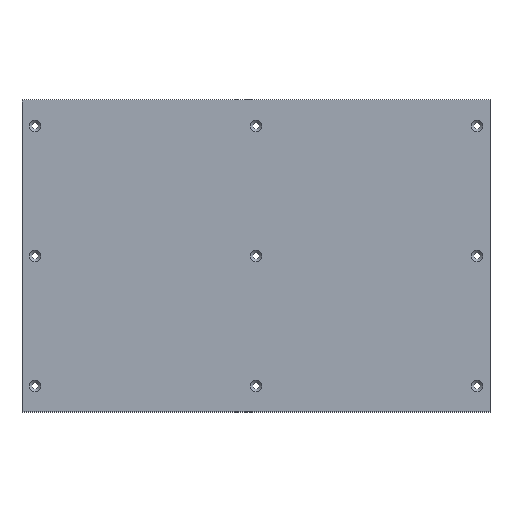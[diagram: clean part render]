
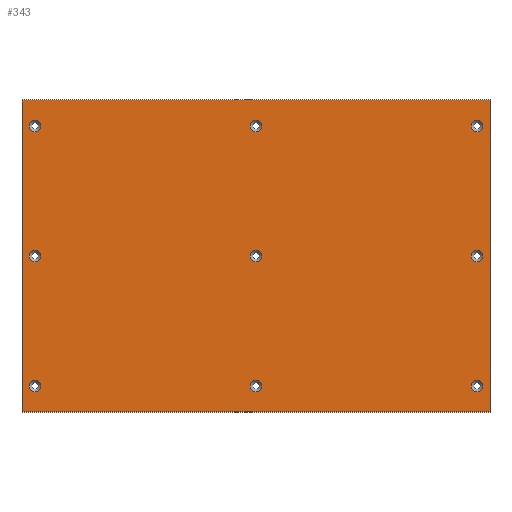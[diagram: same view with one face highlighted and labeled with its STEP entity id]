
A CAD part, top view. The second image highlights one B-rep face of the part: STEP entity #343.
In plain terms, the highlighted planar face has unit normal (0, 0, 1).
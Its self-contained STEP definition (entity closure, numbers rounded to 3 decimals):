
#3 = CARTESIAN_POINT ( 'NONE',  ( -174.5, 0., 5. ) ) ;
#6 = CARTESIAN_POINT ( 'NONE',  ( 170., 100., 5. ) ) ;
#25 = EDGE_CURVE ( 'NONE', #508, #505, #165, .T. ) ;
#26 = DIRECTION ( 'NONE',  ( 0., 0., -1. ) ) ;
#34 = EDGE_LOOP ( 'NONE', ( #669 ) ) ;
#35 = DIRECTION ( 'NONE',  ( -1., 0., 0. ) ) ;
#41 = AXIS2_PLACEMENT_3D ( 'NONE', #357, #522, #579 ) ;
#42 = CARTESIAN_POINT ( 'NONE',  ( -174.5, 100., 5. ) ) ;
#43 = DIRECTION ( 'NONE',  ( -1., 0., 0. ) ) ;
#46 = DIRECTION ( 'NONE',  ( 0., 0., -1. ) ) ;
#48 = ORIENTED_EDGE ( 'NONE', *, *, #526, .T. ) ;
#49 = VERTEX_POINT ( 'NONE', #111 ) ;
#50 = FACE_BOUND ( 'NONE', #689, .T. ) ;
#56 = LINE ( 'NONE', #385, #593 ) ;
#62 = EDGE_CURVE ( 'NONE', #505, #511, #56, .T. ) ;
#65 = AXIS2_PLACEMENT_3D ( 'NONE', #585, #26, #81 ) ;
#66 = DIRECTION ( 'NONE',  ( 0., 1., 0. ) ) ;
#81 = DIRECTION ( 'NONE',  ( -1., 0., 0. ) ) ;
#83 = EDGE_LOOP ( 'NONE', ( #266 ) ) ;
#85 = EDGE_CURVE ( 'NONE', #308, #308, #121, .T. ) ;
#90 = CARTESIAN_POINT ( 'NONE',  ( 0., -100., 5. ) ) ;
#99 = ORIENTED_EDGE ( 'NONE', *, *, #62, .T. ) ;
#105 = VERTEX_POINT ( 'NONE', #322 ) ;
#110 = CIRCLE ( 'NONE', #328, 4.5 ) ;
#111 = CARTESIAN_POINT ( 'NONE',  ( 165.5, 0., 5. ) ) ;
#112 = CIRCLE ( 'NONE', #694, 4.5 ) ;
#116 = EDGE_CURVE ( 'NONE', #602, #602, #110, .T. ) ;
#121 = CIRCLE ( 'NONE', #374, 4.5 ) ;
#137 = DIRECTION ( 'NONE',  ( 0., 0., -1. ) ) ;
#142 = ORIENTED_EDGE ( 'NONE', *, *, #437, .T. ) ;
#144 = AXIS2_PLACEMENT_3D ( 'NONE', #204, #46, #433 ) ;
#162 = EDGE_LOOP ( 'NONE', ( #336 ) ) ;
#165 = LINE ( 'NONE', #174, #630 ) ;
#168 = AXIS2_PLACEMENT_3D ( 'NONE', #90, #586, #43 ) ;
#174 = CARTESIAN_POINT ( 'NONE',  ( -180., -120., 5. ) ) ;
#204 = CARTESIAN_POINT ( 'NONE',  ( 0., 0., 5. ) ) ;
#206 = VERTEX_POINT ( 'NONE', #42 ) ;
#219 = CARTESIAN_POINT ( 'NONE',  ( 165.5, -100., 5. ) ) ;
#224 = AXIS2_PLACEMENT_3D ( 'NONE', #6, #450, #289 ) ;
#243 = DIRECTION ( 'NONE',  ( -1., 0., 0. ) ) ;
#255 = FACE_BOUND ( 'NONE', #83, .T. ) ;
#260 = FACE_BOUND ( 'NONE', #389, .T. ) ;
#265 = LINE ( 'NONE', #488, #517 ) ;
#266 = ORIENTED_EDGE ( 'NONE', *, *, #425, .T. ) ;
#268 = FACE_BOUND ( 'NONE', #34, .T. ) ;
#270 = VERTEX_POINT ( 'NONE', #3 ) ;
#273 = CIRCLE ( 'NONE', #641, 4.5 ) ;
#275 = CARTESIAN_POINT ( 'NONE',  ( -4.5, 0., 5. ) ) ;
#276 = CARTESIAN_POINT ( 'NONE',  ( 170., -100., 5. ) ) ;
#285 = CARTESIAN_POINT ( 'NONE',  ( -180., 120., 5. ) ) ;
#289 = DIRECTION ( 'NONE',  ( -1., 0., 0. ) ) ;
#300 = LINE ( 'NONE', #690, #617 ) ;
#308 = VERTEX_POINT ( 'NONE', #219 ) ;
#310 = EDGE_LOOP ( 'NONE', ( #418 ) ) ;
#320 = FACE_BOUND ( 'NONE', #596, .T. ) ;
#322 = CARTESIAN_POINT ( 'NONE',  ( -4.5, -100., 5. ) ) ;
#326 = CARTESIAN_POINT ( 'NONE',  ( 165.5, 100., 5. ) ) ;
#328 = AXIS2_PLACEMENT_3D ( 'NONE', #571, #577, #521 ) ;
#332 = VERTEX_POINT ( 'NONE', #326 ) ;
#336 = ORIENTED_EDGE ( 'NONE', *, *, #85, .T. ) ;
#340 = CIRCLE ( 'NONE', #168, 4.5 ) ;
#343 = ADVANCED_FACE ( 'NONE', ( #534, #50, #260, #484, #320, #255, #708, #268, #479, #366 ), #702, .F. ) ;
#355 = CIRCLE ( 'NONE', #41, 4.5 ) ;
#357 = CARTESIAN_POINT ( 'NONE',  ( -170., 0., 5. ) ) ;
#366 = FACE_OUTER_BOUND ( 'NONE', #716, .T. ) ;
#373 = ORIENTED_EDGE ( 'NONE', *, *, #653, .T. ) ;
#374 = AXIS2_PLACEMENT_3D ( 'NONE', #276, #498, #243 ) ;
#375 = CIRCLE ( 'NONE', #65, 4.5 ) ;
#378 = CARTESIAN_POINT ( 'NONE',  ( -4.5, 100., 5. ) ) ;
#384 = EDGE_CURVE ( 'NONE', #710, #710, #112, .T. ) ;
#385 = CARTESIAN_POINT ( 'NONE',  ( 180., -120., 5. ) ) ;
#389 = EDGE_LOOP ( 'NONE', ( #48 ) ) ;
#392 = EDGE_LOOP ( 'NONE', ( #373 ) ) ;
#401 = CARTESIAN_POINT ( 'NONE',  ( 180., -120., 5. ) ) ;
#407 = DIRECTION ( 'NONE',  ( -1., 0., 0. ) ) ;
#413 = ORIENTED_EDGE ( 'NONE', *, *, #597, .T. ) ;
#417 = CARTESIAN_POINT ( 'NONE',  ( -170., -100., 5. ) ) ;
#418 = ORIENTED_EDGE ( 'NONE', *, *, #495, .T. ) ;
#423 = ORIENTED_EDGE ( 'NONE', *, *, #664, .T. ) ;
#425 = EDGE_CURVE ( 'NONE', #105, #105, #340, .T. ) ;
#433 = DIRECTION ( 'NONE',  ( -1., 0., 0. ) ) ;
#437 = EDGE_CURVE ( 'NONE', #485, #508, #265, .T. ) ;
#450 = DIRECTION ( 'NONE',  ( 0., 0., -1. ) ) ;
#457 = AXIS2_PLACEMENT_3D ( 'NONE', #590, #137, #35 ) ;
#479 = FACE_BOUND ( 'NONE', #392, .T. ) ;
#480 = ORIENTED_EDGE ( 'NONE', *, *, #384, .T. ) ;
#483 = CIRCLE ( 'NONE', #224, 4.5 ) ;
#484 = FACE_BOUND ( 'NONE', #310, .T. ) ;
#485 = VERTEX_POINT ( 'NONE', #285 ) ;
#488 = CARTESIAN_POINT ( 'NONE',  ( -180., -120., 5. ) ) ;
#495 = EDGE_CURVE ( 'NONE', #548, #548, #273, .T. ) ;
#498 = DIRECTION ( 'NONE',  ( 0., 0., -1. ) ) ;
#503 = DIRECTION ( 'NONE',  ( -1., 0., 0. ) ) ;
#505 = VERTEX_POINT ( 'NONE', #401 ) ;
#508 = VERTEX_POINT ( 'NONE', #628 ) ;
#510 = CARTESIAN_POINT ( 'NONE',  ( 0., 100., 5. ) ) ;
#511 = VERTEX_POINT ( 'NONE', #622 ) ;
#513 = DIRECTION ( 'NONE',  ( 0., 0., -1. ) ) ;
#517 = VECTOR ( 'NONE', #711, 1000. ) ;
#521 = DIRECTION ( 'NONE',  ( -1., 0., 0. ) ) ;
#522 = DIRECTION ( 'NONE',  ( 0., 0., -1. ) ) ;
#524 = EDGE_LOOP ( 'NONE', ( #480 ) ) ;
#526 = EDGE_CURVE ( 'NONE', #332, #332, #483, .T. ) ;
#534 = FACE_BOUND ( 'NONE', #162, .T. ) ;
#544 = ORIENTED_EDGE ( 'NONE', *, *, #116, .T. ) ;
#548 = VERTEX_POINT ( 'NONE', #378 ) ;
#563 = CIRCLE ( 'NONE', #457, 4.5 ) ;
#571 = CARTESIAN_POINT ( 'NONE',  ( 0., 0., 5. ) ) ;
#577 = DIRECTION ( 'NONE',  ( 0., 0., -1. ) ) ;
#579 = DIRECTION ( 'NONE',  ( -1., 0., 0. ) ) ;
#585 = CARTESIAN_POINT ( 'NONE',  ( -170., 100., 5. ) ) ;
#586 = DIRECTION ( 'NONE',  ( 0., 0., -1. ) ) ;
#590 = CARTESIAN_POINT ( 'NONE',  ( 170., 0., 5. ) ) ;
#591 = DIRECTION ( 'NONE',  ( 0., 0., -1. ) ) ;
#593 = VECTOR ( 'NONE', #66, 1000. ) ;
#596 = EDGE_LOOP ( 'NONE', ( #544 ) ) ;
#597 = EDGE_CURVE ( 'NONE', #49, #49, #563, .T. ) ;
#602 = VERTEX_POINT ( 'NONE', #275 ) ;
#613 = DIRECTION ( 'NONE',  ( 1., 0., 0. ) ) ;
#617 = VECTOR ( 'NONE', #707, 1000. ) ;
#622 = CARTESIAN_POINT ( 'NONE',  ( 180., 120., 5. ) ) ;
#626 = EDGE_CURVE ( 'NONE', #270, #270, #355, .T. ) ;
#628 = CARTESIAN_POINT ( 'NONE',  ( -180., -120., 5. ) ) ;
#630 = VECTOR ( 'NONE', #613, 1000. ) ;
#641 = AXIS2_PLACEMENT_3D ( 'NONE', #510, #513, #407 ) ;
#653 = EDGE_CURVE ( 'NONE', #206, #206, #375, .T. ) ;
#662 = ORIENTED_EDGE ( 'NONE', *, *, #25, .T. ) ;
#664 = EDGE_CURVE ( 'NONE', #511, #485, #300, .T. ) ;
#666 = CARTESIAN_POINT ( 'NONE',  ( -174.5, -100., 5. ) ) ;
#669 = ORIENTED_EDGE ( 'NONE', *, *, #626, .T. ) ;
#689 = EDGE_LOOP ( 'NONE', ( #413 ) ) ;
#690 = CARTESIAN_POINT ( 'NONE',  ( -180., 120., 5. ) ) ;
#694 = AXIS2_PLACEMENT_3D ( 'NONE', #417, #591, #503 ) ;
#702 = PLANE ( 'NONE',  #144 ) ;
#707 = DIRECTION ( 'NONE',  ( -1., 0., 0. ) ) ;
#708 = FACE_BOUND ( 'NONE', #524, .T. ) ;
#710 = VERTEX_POINT ( 'NONE', #666 ) ;
#711 = DIRECTION ( 'NONE',  ( 0., -1., 0. ) ) ;
#716 = EDGE_LOOP ( 'NONE', ( #99, #423, #142, #662 ) ) ;
